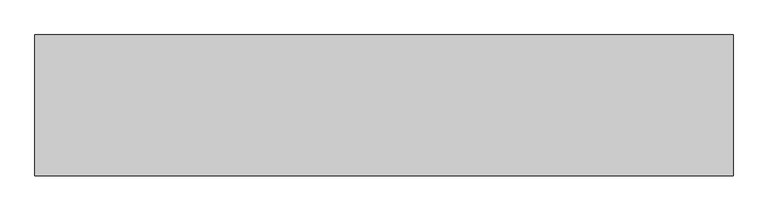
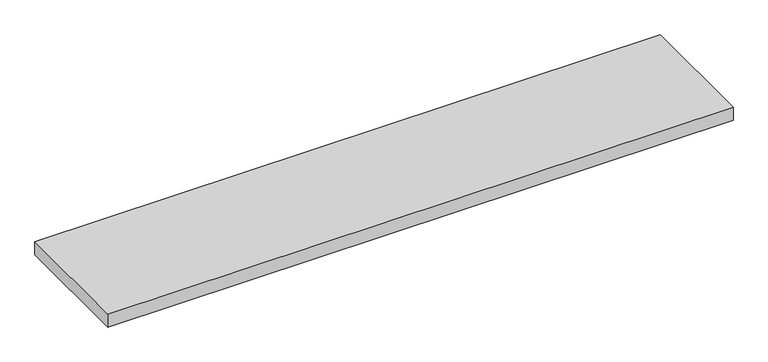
"""IFC4 building model written with IfcOpenShell, lengths in millimetres: furniture geometry, Tablette sanitaires : Sans réservation pour évier."""

from ifc_helpers import new_model, si_unit, origin, origin_with_axes, place, context, project, spatial, polyline, outline, extrude, source, transform, mapped, element, save


def furniture_59dbfa0b(model_context):
    return source(origin(), model_context, "Body", "SweptSolid", [
        extrude(outline(polyline([(125.0, 236.0), (125.0, 0.0), (-1043.0, 0.0), (-1043.0, 236.0), (125.0, 236.0)])), origin_with_axes(), (0.0, 0.0, 1.0), 25.0),
    ])


if __name__ == "__main__":
    model = new_model("IFC4")
    model_context = context("Model", 3, world=origin())
    ifc_project = project(units=[si_unit("LENGTHUNIT", "METRE", prefix="MILLI")], contexts=[model_context])
    site = spatial("IfcSite", under=ifc_project)
    building = spatial("IfcBuilding", under=site)
    placement = place(None, origin())
    furniture_shape = furniture_59dbfa0b(model_context)
    element("IfcFurniture", 1, ObjectType="Tablette sanitaires : Sans réservation pour évier", at=placement, inside=building, context=model_context, shape_type="MappedRepresentation", body=[
        mapped(furniture_shape, transform((0.0, 0.0, 0.0), x_axis=(1.0, 0.0, 0.0), y_axis=(0.0, 1.0, 0.0), z_axis=(0.0, 0.0, 1.0))),
    ])
    save(model, "model.ifc")
